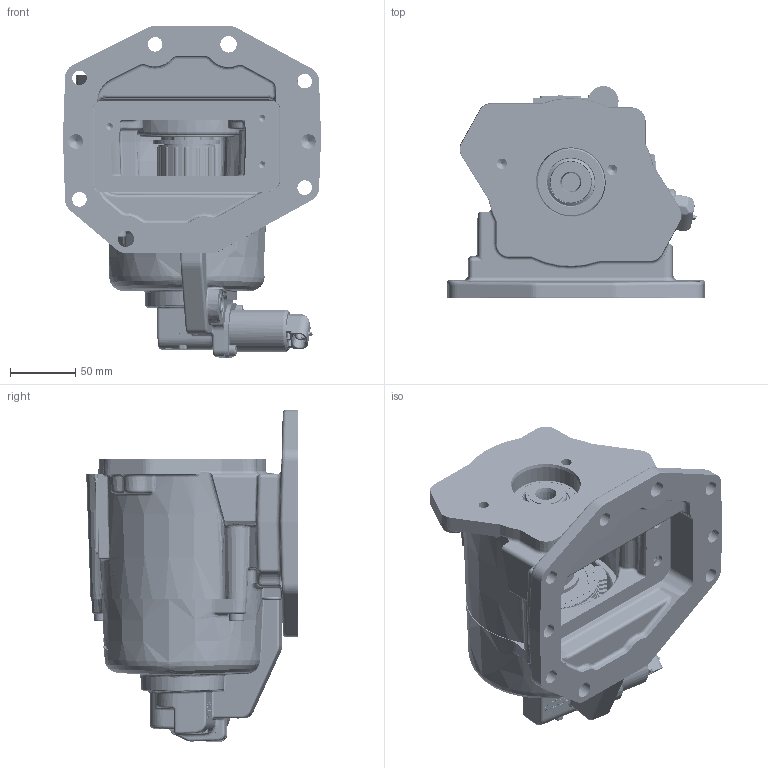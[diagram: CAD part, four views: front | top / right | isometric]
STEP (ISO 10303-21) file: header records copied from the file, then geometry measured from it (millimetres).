
FILE_DESCRIPTION (( 'STEP AP203' ), '1' );
FILE_NAME ('F22-F1312-XX5TNXX.STEP', '2023-04-18T14:34:10', ( '' ), ( '' ), 'SwSTEP 2.0', 'SolidWorks 2021', '' );
FILE_SCHEMA (( 'CONFIG_CONTROL_DESIGN' ));
Length unit declared in the file: inch
Products named in the file (30): SC-253_12T36872; F22-F1312-XX5TNXX; 24T39182; 10T39072; 25T65123; 19T62950; 49T64056; 11T63830; 19T65396; 25T65492; 49T64057; 06T64163; SC-301_BB_25T37702; 35T43600; 01T66168DB1; 15T64932; 49T36258; 36T62352; 10T62471; 27T61827; 12T39023; SC-301_25T37387; 35M35821M; SC-253_12T36878; SC-253_12T36280; 49T65367; 10T21017; 24T36470; 21T62472; 12T64059
Assembly tree (55 placements, depth 2):
  F22-F1312-XX5TNXX
    10T21017
    10T39072
    24T39182
    49T64057
    49T64056
    27T61827
    24T36470
    36T62352
    35M35821M  x2
    11T63830
    12T39023  x2
    21T62472  x2
    19T62950  x2
    SC-301_BB_25T37702  x2
    SC-253_12T36280  x2
    SC-253_12T36872
    35T43600
    01T66168DB1
    06T64163
    10T62471
    SC-253_12T36878
    15T64932
    12T64059
    25T65123  x4
    49T65367  x9
    49T36258  x8
    19T65396  x3
    25T65492
    SC-301_25T37387
Bounding box: 197.37 x 161.75 x 253.82 mm (x, y, z)
Volume: 1763892.3 mm3; surface area: 605500.2 mm2
Topology: 92 solids, 94 shells, 8630 faces, 23721 edges, 15217 vertices
Faces by surface type: plane 3410, cylinder 2971, bspline 1195, cone 531, torus 464, sphere 59
Entity records: 200335 total; most frequent: CARTESIAN_POINT 92995, ORIENTED_EDGE 23672, DIRECTION 18680, EDGE_CURVE 11836, VERTEX_POINT 7450, AXIS2_PLACEMENT_3D 7218, EDGE_LOOP 4996, FACE_OUTER_BOUND 4632
